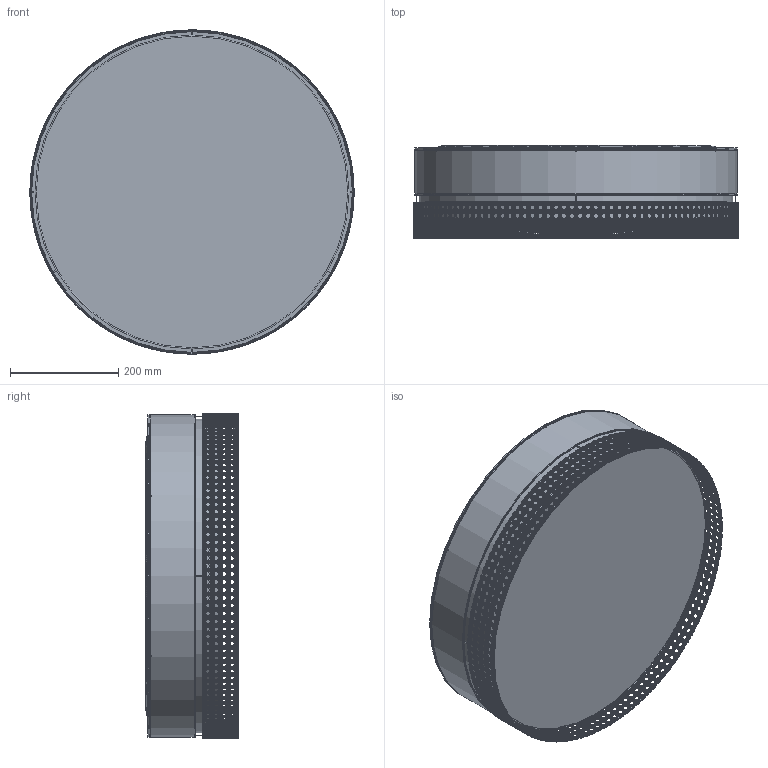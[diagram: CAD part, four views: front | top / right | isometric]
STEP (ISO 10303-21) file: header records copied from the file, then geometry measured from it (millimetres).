
FILE_DESCRIPTION(/* description */ (''),/* implementation_level */ '2;1');
FILE_NAME(/* name */ 'C:/Users/kubaw/OneDrive/Pulpit/Nowy folder (3)/6535_PAGLIA v8.step',/* time_stamp */ '2021-12-11T12:19:41+01:00',/* author */ (''),/* organization */ (''),/* preprocessor_version */ 'ST-DEVELOPER v18.1',/* originating_system */ 'Autodesk Translation Framework v10.10.0.1391',/* authorisation */ '');
FILE_SCHEMA (('AP203_CONFIGURATION_CONTROLLED_3D_DESIGN_OF_MECHANICAL_PARTS_AND_ASSEMBLIES_MIM_LF { 1 0 10303 203 3 1 4 }','AUTOMOTIVE_DESIGN { 1 0 10303 214 3 1 1 }'));
Products named in the file (3): 6535_PAGLIA; MOCOWANIE_PLAFON; POKRYWA_600
Assembly tree (2 placements, depth 2):
  6535_PAGLIA
    MOCOWANIE_PLAFON
    POKRYWA_600
Bounding box: 600.01 x 171.5 x 600 mm (x, y, z)
Volume: 1626805.5 mm3; surface area: 2457974.5 mm2
Topology: 568 solids, 569 shells, 5344 faces, 12581 edges, 8371 vertices
Faces by surface type: plane 2104, cylinder 1621, bspline 1557, torus 62
Full cylindrical faces by diameter (mm): 2 x6, 14.819 x8, 18 x1, 19.6 x3, 20 x1, 20.058 x4, 28.544 x4, 30 x4, 40 x4, 45 x4, 96 x1, 100 x1, 576.976 x2, 580.976 x1, 593.978 x4, 594.978 x1, 595.84 x1, 596.978 x1, 597.8 x1, 597.978 x4, 598 x10, 600 x10
Entity records: 258550 total; most frequent: CARTESIAN_POINT 145443, ORIENTED_EDGE 25158, DIRECTION 19844, EDGE_CURVE 12581, VERTEX_POINT 8371, AXIS2_PLACEMENT_3D 7282, EDGE_LOOP 5405, FACE_OUTER_BOUND 5344
